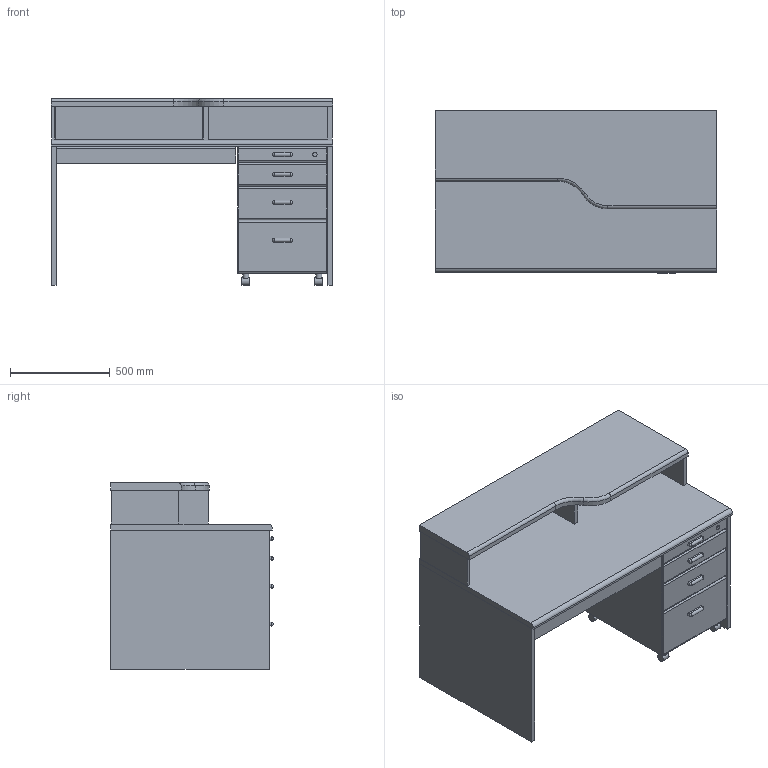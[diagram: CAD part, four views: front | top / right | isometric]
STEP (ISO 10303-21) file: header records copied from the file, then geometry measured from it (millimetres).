
FILE_DESCRIPTION(/* description */ (''),/* implementation_level */ '2;1');
FILE_NAME(/* name */ 'C:\Users\Fujimoto-s\OneDrive\Inventor\WorkSpace\\X2\305D306E4ED6\X0\\ホームページ用\\X2\30C030A630F330ED30FC30C97D206750\X0\\ＰＣ関係\\X2\30A230C330D730ED30FC30C97528\X0\\ＰＣデスク\ＰＣ机.stp',/* time_stamp */ '2024-08-13T17:00:11+09:00',/* author */ ('Fujimoto-s'),/* organization */ (''),/* preprocessor_version */ 'ST-DEVELOPER v15.2',/* originating_system */ 'Autodesk Inventor 2014',/* authorisation */ '');
FILE_SCHEMA (('AUTOMOTIVE_DESIGN { 1 0 10303 214 3 1 1 }'));
Length unit declared in the file: millimetre
Products named in the file (1): ＰＣ机
Bounding box: 1415 x 815 x 938 mm (x, y, z)
Volume: 281077175 mm3; surface area: 9657366.8 mm2
Topology: 5 solids, 5 shells, 127 faces, 307 edges, 185 vertices
Faces by surface type: plane 82, cylinder 35, sphere 8, torus 2
Full cylindrical faces by diameter (mm): 21 x1, 30 x4, 40 x4
Entity records: 3684 total; most frequent: CARTESIAN_POINT 771, DIRECTION 591, ORIENTED_EDGE 540, EDGE_CURVE 270, LINE 197, VECTOR 197, AXIS2_PLACEMENT_3D 197, VERTEX_POINT 177
